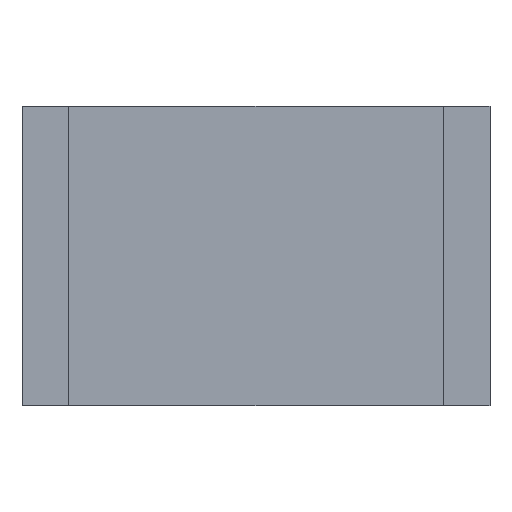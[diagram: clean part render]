
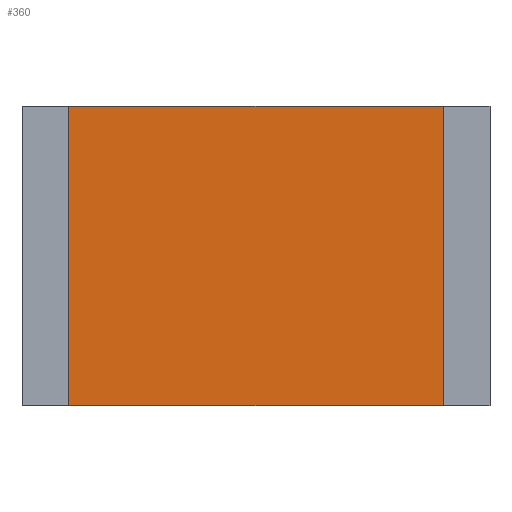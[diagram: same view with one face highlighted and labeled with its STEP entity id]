
A CAD part, top view. The second image highlights one B-rep face of the part: STEP entity #360.
In plain terms, the highlighted planar face has unit normal (0, 0, 1).
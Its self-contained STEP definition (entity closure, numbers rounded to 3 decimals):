
#360=ADVANCED_FACE('',(#759),#761,.T.);
#759=FACE_BOUND('',#760,.T.);
#760=EDGE_LOOP('',(#1046,#1047,#1048,#1049));
#761=PLANE('',#762);
#762=AXIS2_PLACEMENT_3D('',#763,#764,#765);
#763=CARTESIAN_POINT('',(0.,0.,0.6));
#764=DIRECTION('',(0.,0.,1.));
#765=DIRECTION('',(-1.,0.,0.));
#1046=ORIENTED_EDGE('',*,*,#1218,.T.);
#1047=ORIENTED_EDGE('',*,*,#1222,.T.);
#1048=ORIENTED_EDGE('',*,*,#1225,.T.);
#1049=ORIENTED_EDGE('',*,*,#1227,.T.);
#1218=EDGE_CURVE('',#1384,#1382,#1385,.T.);
#1222=EDGE_CURVE('',#1382,#1389,#1391,.T.);
#1225=EDGE_CURVE('',#1389,#1394,#1396,.T.);
#1227=EDGE_CURVE('',#1394,#1384,#1398,.T.);
#1382=VERTEX_POINT('',#1709);
#1384=VERTEX_POINT('',#1713);
#1385=LINE('',#1714,#1715);
#1389=VERTEX_POINT('',#1724);
#1391=LINE('',#1728,#1729);
#1394=VERTEX_POINT('',#1735);
#1396=LINE('',#1739,#1740);
#1398=LINE('',#1745,#1746);
#1709=CARTESIAN_POINT('',(2.,-1.6,0.6));
#1713=CARTESIAN_POINT('',(-2.,-1.6,0.6));
#1714=CARTESIAN_POINT('',(-2.,-1.6,0.6));
#1715=VECTOR('',#1716,1.);
#1716=DIRECTION('',(1.,0.,0.));
#1724=CARTESIAN_POINT('',(2.,1.6,0.6));
#1728=CARTESIAN_POINT('',(2.,-1.6,0.6));
#1729=VECTOR('',#1730,1.);
#1730=DIRECTION('',(0.,1.,0.));
#1735=CARTESIAN_POINT('',(-2.,1.6,0.6));
#1739=CARTESIAN_POINT('',(2.,1.6,0.6));
#1740=VECTOR('',#1741,1.);
#1741=DIRECTION('',(-1.,0.,0.));
#1745=CARTESIAN_POINT('',(-2.,1.6,0.6));
#1746=VECTOR('',#1747,1.);
#1747=DIRECTION('',(0.,-1.,0.));
